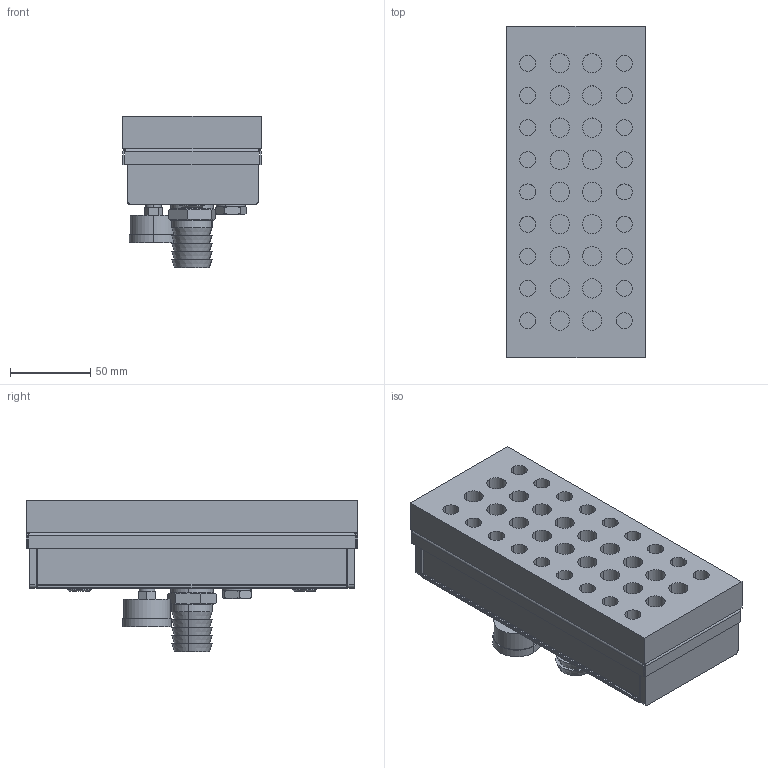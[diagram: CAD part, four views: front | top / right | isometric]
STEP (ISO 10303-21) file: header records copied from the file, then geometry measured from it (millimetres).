
FILE_DESCRIPTION (( 'STEP AP214' ), '1' );
FILE_NAME ('9671 020 011.STEP', '2012-09-03T12:49:52', ( 'cad' ), ( 'Microsoft' ), 'SwSTEP 2.0', 'SolidWorks 2012', '' );
FILE_SCHEMA (( 'AUTOMOTIVE_DESIGN' ));
Length unit declared in the file: millimetre
Products named in the file (1): 9671 020 011
Bounding box: 86 x 206 x 94 mm (x, y, z)
Volume: 872377.4 mm3; surface area: 116813.2 mm2
Topology: 1 solids, 1 shells, 355 faces, 775 edges, 488 vertices
Faces by surface type: plane 187, cylinder 138, cone 22, bspline 8
Entity records: 12617 total; most frequent: CARTESIAN_POINT 2115, DIRECTION 1705, ORIENTED_EDGE 1550, EDGE_CURVE 775, AXIS2_PLACEMENT_3D 638, VERTEX_POINT 488, VECTOR 429, LINE 429
